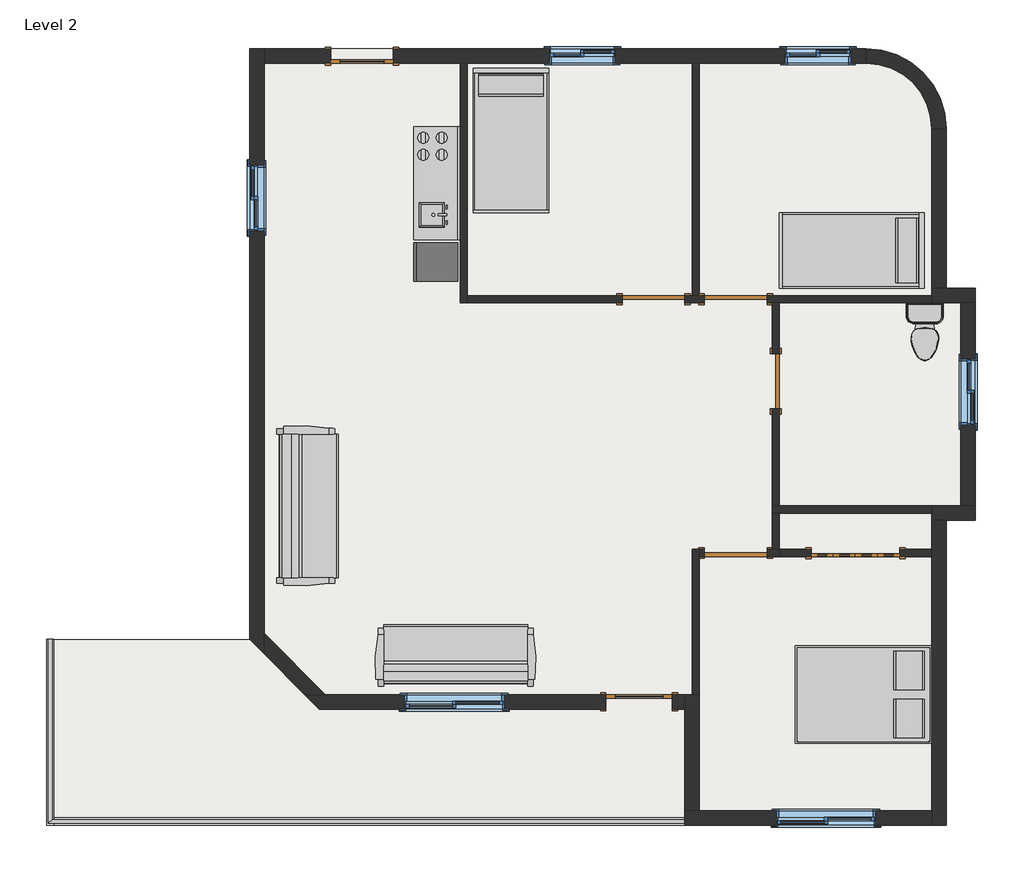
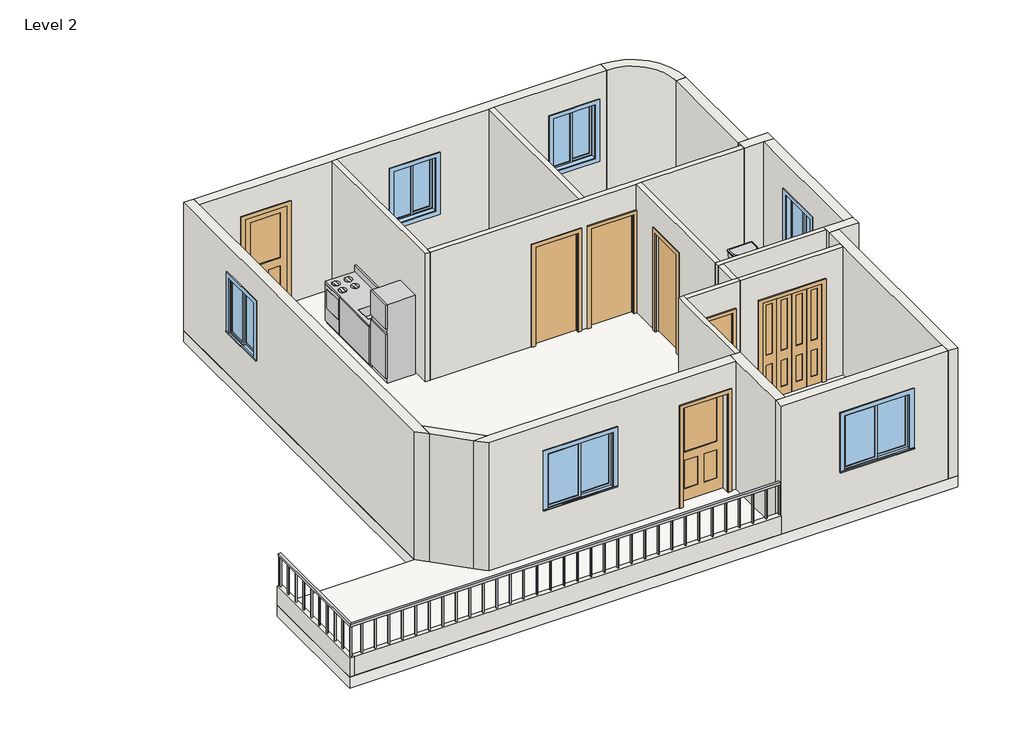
# One storey: 23 walls, 7 doors, 6 windows, 5 furniture elements, 2 flow terminals, 1 railing, 1 slab.
"""IFC4 building model written with IfcOpenShell, lengths in millimetres."""

from ifc_helpers import new_model, si_unit, point, frame, frame_2d, origin, place, context, project, spatial, polyline, circle_curve, trimmed, segment, composite_curve, outline, extrude, faceted_brep, transform, mapped, element, save
from components import m_bifold_4_panel_1220_x_2134mm_c9b228a8, m_single_decorative_1_0864_x_2134mm_a8b8a0d3, m_single_decorative_1_0914_x_2134mm_d79a5f66, m_single_flush_0762_x_2134mm_2f099e9c, m_single_flush_0864_x_2134mm_3838e64d, m_single_flush_0864_x_2134mm_bdbe8edc, m_kitchen_unit_635_mmx2135_mm_826748c3, m_toilet_domestic_3d_m_toilet_domestic_3d_5cb52bd4, m_toilet_domestic_3d_m_toilet_domestic_3d_183bbd19, m_bed_box_1346_x_1880mm_double_9a731973, m_bed_shaker_1040_x_1981mm_twin_31f1bf66, m_sofa_pensi_2134mm_eda8efce, m_sliding_with_trim_0915_x_1220mm_c5f69082, m_sliding_with_trim_1372_x_1220mm_1cbd48f5

model = new_model("IFC4")

# Units and contexts
model_context = context("Model", 3, world=origin())
ifc_project = project(units=[si_unit("LENGTHUNIT", "METRE", prefix="MILLI")], contexts=[model_context])

# Site, building, storey
site = spatial("IfcSite", under=ifc_project)
building = spatial("IfcBuilding", under=site)
storey = spatial("IfcBuildingStorey", under=building, Name="Level 2", Elevation=3000.0)

# Doors
placement = place(None, origin())
m_bifold_4_panel_1220_x_2134mm_shape = m_bifold_4_panel_1220_x_2134mm_c9b228a8(model_context)
element("IfcDoor", 1, ObjectType="M_Bifold-4 Panel : 1220 x 2134mm", at=placement, inside=storey, context=model_context, shape_type="MappedRepresentation", body=[
    mapped(m_bifold_4_panel_1220_x_2134mm_shape, transform((-9012.9123896, -2705.4324328, 3000.0), x_axis=(-1.0, 0.0, 0.0), y_axis=(0.0, -1.0, 0.0), z_axis=(0.0, 0.0, 1.0))),
])
m_single_decorative_1_0864_x_2134mm_shape = m_single_decorative_1_0864_x_2134mm_a8b8a0d3(model_context)
element("IfcDoor", 2, ObjectType="M_Single-Decorative 1 : 0864 x 2134mm", at=placement, inside=storey, context=model_context, shape_type="MappedRepresentation", body=[
    mapped(m_single_decorative_1_0864_x_2134mm_shape, transform((-15812.9123896, 4144.5675672, 3000.0), x_axis=(-1.0, 0.0, 0.0), y_axis=(0.0, -1.0, 0.0), z_axis=(0.0, 0.0, 1.0))),
])
m_single_decorative_1_0914_x_2134mm_shape = m_single_decorative_1_0914_x_2134mm_d79a5f66(model_context)
element("IfcDoor", 3, ObjectType="M_Single-Decorative 1 : 0914 x 2134mm", at=placement, inside=storey, context=model_context, shape_type="MappedRepresentation", body=[
    mapped(m_single_decorative_1_0914_x_2134mm_shape, transform((-11994.9123896, -4755.4324328, 3000.0), x_axis=(1.0, 0.0, 0.0), y_axis=(0.0, 1.0, 0.0), z_axis=(0.0, 0.0, 1.0))),
])
m_single_flush_0762_x_2134mm_shape = m_single_flush_0762_x_2134mm_2f099e9c(model_context)
element("IfcDoor", 4, ObjectType="M_Single-Flush : 0762 x 2134mm", at=placement, inside=storey, context=model_context, shape_type="MappedRepresentation", body=[
    mapped(m_single_flush_0762_x_2134mm_shape, transform((-10112.9123896, -336.4324328, 3000.0), x_axis=(0.0, 1.0, 0.0), y_axis=(-1.0, 0.0, 0.0), z_axis=(0.0, 0.0, 1.0))),
])
m_single_flush_0864_x_2134mm_shape = m_single_flush_0864_x_2134mm_3838e64d(model_context)
element("IfcDoor", 5, ObjectType="M_Single-Flush : 0864 x 2134mm", at=placement, inside=storey, context=model_context, shape_type="MappedRepresentation", body=[
    mapped(m_single_flush_0864_x_2134mm_shape, transform((-10662.9123896, -2705.4324328, 3000.0), x_axis=(-1.0, 0.0, 0.0), y_axis=(0.0, -1.0, 0.0), z_axis=(0.0, 0.0, 1.0))),
])
element("IfcDoor", 6, ObjectType="M_Single-Flush : 0864 x 2134mm", at=placement, inside=storey, context=model_context, shape_type="MappedRepresentation", body=[
    mapped(m_single_flush_0864_x_2134mm_shape, transform((-11794.9123896, 794.5675672, 3000.0), x_axis=(1.0, 0.0, 0.0), y_axis=(0.0, 1.0, 0.0), z_axis=(0.0, 0.0, 1.0))),
])
m_single_flush_0864_x_2134mm_2_shape = m_single_flush_0864_x_2134mm_bdbe8edc(model_context)
element("IfcDoor", 7, ObjectType="M_Single-Flush : 0864 x 2134mm", at=placement, inside=storey, context=model_context, shape_type="MappedRepresentation", body=[
    mapped(m_single_flush_0864_x_2134mm_2_shape, transform((-10662.9123896, 794.5675672, 3000.0), x_axis=(-1.0, 0.0, 0.0), y_axis=(0.0, -1.0, 0.0), z_axis=(0.0, 0.0, 1.0))),
])

# Flow terminals
m_kitchen_unit_635_mmx2135_mm_shape = m_kitchen_unit_635_mmx2135_mm_826748c3(model_context)
element("IfcFlowTerminal", 8, ObjectType="M_Kitchen Unit : 635 mmx2135 mm", at=placement, inside=storey, context=model_context, shape_type="MappedRepresentation", body=[
    mapped(m_kitchen_unit_635_mmx2135_mm_shape, transform((-14462.9123896, 2394.5675672, 3000.0), x_axis=(-1.0, 0.0, 0.0), y_axis=(0.0, -1.0, 0.0), z_axis=(0.0, 0.0, 1.0))),
])
m_toilet_domestic_3d_m_toilet_domestic_3d_shape = m_toilet_domestic_3d_m_toilet_domestic_3d_5cb52bd4(model_context)
m_toilet_domestic_3d_m_toilet_domestic_3d_2_shape = m_toilet_domestic_3d_m_toilet_domestic_3d_183bbd19(model_context)
element("IfcFlowTerminal", 9, ObjectType="M_Toilet-Domestic-3D : M_Toilet-Domestic-3D", at=placement, inside=storey, context=model_context, shape_type="MappedRepresentation", body=[
    mapped(m_toilet_domestic_3d_m_toilet_domestic_3d_shape, transform((-8056.308417, 249.8715399, 3000.0), x_axis=(1.0, 0.0, 0.0), y_axis=(0.0, 1.0, 0.0), z_axis=(0.0, 0.0, 1.0))),
    mapped(m_toilet_domestic_3d_m_toilet_domestic_3d_2_shape, transform((-8056.308417, 249.8715399, 3000.0), x_axis=(1.0, 0.0, 0.0), y_axis=(0.0, 1.0, 0.0), z_axis=(0.0, 0.0, 1.0))),
])

# Furniture
m_bed_box_1346_x_1880mm_double_shape = m_bed_box_1346_x_1880mm_double_9a731973(model_context)
element("IfcFurniture", 10, ObjectType="M_Bed-Box : 1346 x 1880mm - Double", at=placement, inside=storey, context=model_context, shape_type="MappedRepresentation", body=[
    mapped(m_bed_box_1346_x_1880mm_double_shape, transform((-8668.4828814, -4316.2799738, 3000.0), x_axis=(0.0, -1.0, 0.0), y_axis=(1.0, 0.0, 0.0), z_axis=(0.0, 0.0, 1.0))),
])
m_bed_shaker_1040_x_1981mm_twin_shape = m_bed_shaker_1040_x_1981mm_twin_31f1bf66(model_context)
element("IfcFurniture", 11, ObjectType="M_Bed-Shaker : 1040 x 1981mm - Twin", at=placement, inside=storey, context=model_context, shape_type="MappedRepresentation", body=[
    mapped(m_bed_shaker_1040_x_1981mm_twin_shape, transform((-8081.7123896, 1446.2175672, 3000.0), x_axis=(0.0, -1.0, 0.0), y_axis=(1.0, 0.0, 0.0), z_axis=(0.0, 0.0, 1.0))),
])
element("IfcFurniture", 12, ObjectType="M_Bed-Shaker : 1040 x 1981mm - Twin", at=placement, inside=storey, context=model_context, shape_type="MappedRepresentation", body=[
    mapped(m_bed_shaker_1040_x_1981mm_twin_shape, transform((-13743.1623896, 3964.5675672, 3000.0), x_axis=(1.0, 0.0, 0.0), y_axis=(0.0, 1.0, 0.0), z_axis=(0.0, 0.0, 1.0))),
])
m_sofa_pensi_2134mm_shape = m_sofa_pensi_2134mm_eda8efce(model_context)
element("IfcFurniture", 13, ObjectType="M_Sofa-Pensi : 2134mm", at=placement, inside=storey, context=model_context, shape_type="MappedRepresentation", body=[
    mapped(m_sofa_pensi_2134mm_shape, transform((-14244.3061396, -3838.3225967, 3000.0), x_axis=(-1.0, 0.0, 0.0), y_axis=(0.0, -1.0, 0.0), z_axis=(0.0, 0.0, 1.0))),
])
element("IfcFurniture", 14, ObjectType="M_Sofa-Pensi : 2134mm", at=placement, inside=storey, context=model_context, shape_type="MappedRepresentation", body=[
    mapped(m_sofa_pensi_2134mm_shape, transform((-16285.8025536, -2334.0386828, 3000.0), x_axis=(0.0, 1.0, 0.0), y_axis=(-1.0, 0.0, 0.0), z_axis=(0.0, 0.0, 1.0))),
])

# Railing
element("IfcRailing", 15, ObjectType="700mm", at=placement, inside=storey, context=model_context, shape_type="SolidModel", body=[
    faceted_brep([(-11362.9123896, -6430.4324328, 4100.0), (-11362.9123896, -6430.4324328, 4050.0), (-11362.9123896, -6380.4324328, 4050.0), (-11362.9123896, -6380.4324328, 4100.0), (-20137.5123896, -6430.4324328, 4100.0), (-20137.5123896, -6430.4324328, 4050.0), (-20087.5123896, -6380.4324328, 4050.0), (-20087.5123896, -6380.4324328, 4100.0), (-20137.5123896, -3896.853789, 4100.0), (-20087.5123896, -3896.853789, 4100.0), (-20087.5123896, -3896.853789, 4050.0), (-20137.5123896, -3896.853789, 4050.0)], [[[0, 1, 2, 3]], [[1, 0, 4, 5]], [[2, 1, 5, 6]], [[3, 2, 6, 7]], [[0, 3, 7, 4]], [[8, 9, 10, 11]], [[5, 4, 8, 11]], [[6, 5, 11, 10]], [[7, 6, 10, 9]], [[4, 7, 9, 8]]]),
    extrude(outline(polyline([(-20100.0123896, -3942.9324328), (-20125.0123896, -3942.9324328), (-20125.0123896, -3917.9324328), (-20100.0123896, -3917.9324328), (-20100.0123896, -3942.9324328)])), frame((0.0, 0.0, 3400.0), z_axis=(0.0, 0.0, 1.0), x_axis=(1.0, 0.0, 0.0)), (0.0, 0.0, 1.0), 650.0),
    extrude(outline(polyline([(-20100.0123896, -4217.9324328), (-20125.0123896, -4217.9324328), (-20125.0123896, -4192.9324328), (-20100.0123896, -4192.9324328), (-20100.0123896, -4217.9324328)])), frame((0.0, 0.0, 3400.0), z_axis=(0.0, 0.0, 1.0), x_axis=(1.0, 0.0, 0.0)), (0.0, 0.0, 1.0), 650.0),
    extrude(outline(polyline([(-20100.0123896, -4492.9324328), (-20125.0123896, -4492.9324328), (-20125.0123896, -4467.9324328), (-20100.0123896, -4467.9324328), (-20100.0123896, -4492.9324328)])), frame((0.0, 0.0, 3400.0), z_axis=(0.0, 0.0, 1.0), x_axis=(1.0, 0.0, 0.0)), (0.0, 0.0, 1.0), 650.0),
    extrude(outline(polyline([(-20100.0123896, -4767.9324328), (-20125.0123896, -4767.9324328), (-20125.0123896, -4742.9324328), (-20100.0123896, -4742.9324328), (-20100.0123896, -4767.9324328)])), frame((0.0, 0.0, 3400.0), z_axis=(0.0, 0.0, 1.0), x_axis=(1.0, 0.0, 0.0)), (0.0, 0.0, 1.0), 650.0),
    extrude(outline(polyline([(-20100.0123896, -5042.9324328), (-20125.0123896, -5042.9324328), (-20125.0123896, -5017.9324328), (-20100.0123896, -5017.9324328), (-20100.0123896, -5042.9324328)])), frame((0.0, 0.0, 3400.0), z_axis=(0.0, 0.0, 1.0), x_axis=(1.0, 0.0, 0.0)), (0.0, 0.0, 1.0), 650.0),
    extrude(outline(polyline([(-20100.0123896, -5317.9324328), (-20125.0123896, -5317.9324328), (-20125.0123896, -5292.9324328), (-20100.0123896, -5292.9324328), (-20100.0123896, -5317.9324328)])), frame((0.0, 0.0, 3400.0), z_axis=(0.0, 0.0, 1.0), x_axis=(1.0, 0.0, 0.0)), (0.0, 0.0, 1.0), 650.0),
    extrude(outline(polyline([(-20100.0123896, -5592.9324328), (-20125.0123896, -5592.9324328), (-20125.0123896, -5567.9324328), (-20100.0123896, -5567.9324328), (-20100.0123896, -5592.9324328)])), frame((0.0, 0.0, 3400.0), z_axis=(0.0, 0.0, 1.0), x_axis=(1.0, 0.0, 0.0)), (0.0, 0.0, 1.0), 650.0),
    extrude(outline(polyline([(-20100.0123896, -5867.9324328), (-20125.0123896, -5867.9324328), (-20125.0123896, -5842.9324328), (-20100.0123896, -5842.9324328), (-20100.0123896, -5867.9324328)])), frame((0.0, 0.0, 3400.0), z_axis=(0.0, 0.0, 1.0), x_axis=(1.0, 0.0, 0.0)), (0.0, 0.0, 1.0), 650.0),
    extrude(outline(polyline([(-20100.0123896, -6142.9324328), (-20125.0123896, -6142.9324328), (-20125.0123896, -6117.9324328), (-20100.0123896, -6117.9324328), (-20100.0123896, -6142.9324328)])), frame((0.0, 0.0, 3400.0), z_axis=(0.0, 0.0, 1.0), x_axis=(1.0, 0.0, 0.0)), (0.0, 0.0, 1.0), 650.0),
    extrude(outline(polyline([(-19875.4123896, -6392.9324328), (-19875.4123896, -6417.9324328), (-19900.4123896, -6417.9324328), (-19900.4123896, -6392.9324328), (-19875.4123896, -6392.9324328)])), frame((0.0, 0.0, 3400.0), z_axis=(0.0, 0.0, 1.0), x_axis=(1.0, 0.0, 0.0)), (0.0, 0.0, 1.0), 650.0),
    extrude(outline(polyline([(-19600.4123896, -6392.9324328), (-19600.4123896, -6417.9324328), (-19625.4123896, -6417.9324328), (-19625.4123896, -6392.9324328), (-19600.4123896, -6392.9324328)])), frame((0.0, 0.0, 3400.0), z_axis=(0.0, 0.0, 1.0), x_axis=(1.0, 0.0, 0.0)), (0.0, 0.0, 1.0), 650.0),
    extrude(outline(polyline([(-19325.4123896, -6392.9324328), (-19325.4123896, -6417.9324328), (-19350.4123896, -6417.9324328), (-19350.4123896, -6392.9324328), (-19325.4123896, -6392.9324328)])), frame((0.0, 0.0, 3400.0), z_axis=(0.0, 0.0, 1.0), x_axis=(1.0, 0.0, 0.0)), (0.0, 0.0, 1.0), 650.0),
    extrude(outline(polyline([(-19050.4123896, -6392.9324328), (-19050.4123896, -6417.9324328), (-19075.4123896, -6417.9324328), (-19075.4123896, -6392.9324328), (-19050.4123896, -6392.9324328)])), frame((0.0, 0.0, 3400.0), z_axis=(0.0, 0.0, 1.0), x_axis=(1.0, 0.0, 0.0)), (0.0, 0.0, 1.0), 650.0),
    extrude(outline(polyline([(-18775.4123896, -6392.9324328), (-18775.4123896, -6417.9324328), (-18800.4123896, -6417.9324328), (-18800.4123896, -6392.9324328), (-18775.4123896, -6392.9324328)])), frame((0.0, 0.0, 3400.0), z_axis=(0.0, 0.0, 1.0), x_axis=(1.0, 0.0, 0.0)), (0.0, 0.0, 1.0), 650.0),
    extrude(outline(polyline([(-18500.4123896, -6392.9324328), (-18500.4123896, -6417.9324328), (-18525.4123896, -6417.9324328), (-18525.4123896, -6392.9324328), (-18500.4123896, -6392.9324328)])), frame((0.0, 0.0, 3400.0), z_axis=(0.0, 0.0, 1.0), x_axis=(1.0, 0.0, 0.0)), (0.0, 0.0, 1.0), 650.0),
    extrude(outline(polyline([(-18225.4123896, -6392.9324328), (-18225.4123896, -6417.9324328), (-18250.4123896, -6417.9324328), (-18250.4123896, -6392.9324328), (-18225.4123896, -6392.9324328)])), frame((0.0, 0.0, 3400.0), z_axis=(0.0, 0.0, 1.0), x_axis=(1.0, 0.0, 0.0)), (0.0, 0.0, 1.0), 650.0),
    extrude(outline(polyline([(-17950.4123896, -6392.9324328), (-17950.4123896, -6417.9324328), (-17975.4123896, -6417.9324328), (-17975.4123896, -6392.9324328), (-17950.4123896, -6392.9324328)])), frame((0.0, 0.0, 3400.0), z_axis=(0.0, 0.0, 1.0), x_axis=(1.0, 0.0, 0.0)), (0.0, 0.0, 1.0), 650.0),
    extrude(outline(polyline([(-17675.4123896, -6392.9324328), (-17675.4123896, -6417.9324328), (-17700.4123896, -6417.9324328), (-17700.4123896, -6392.9324328), (-17675.4123896, -6392.9324328)])), frame((0.0, 0.0, 3400.0), z_axis=(0.0, 0.0, 1.0), x_axis=(1.0, 0.0, 0.0)), (0.0, 0.0, 1.0), 650.0),
    extrude(outline(polyline([(-17400.4123896, -6392.9324328), (-17400.4123896, -6417.9324328), (-17425.4123896, -6417.9324328), (-17425.4123896, -6392.9324328), (-17400.4123896, -6392.9324328)])), frame((0.0, 0.0, 3400.0), z_axis=(0.0, 0.0, 1.0), x_axis=(1.0, 0.0, 0.0)), (0.0, 0.0, 1.0), 650.0),
    extrude(outline(polyline([(-17125.4123896, -6392.9324328), (-17125.4123896, -6417.9324328), (-17150.4123896, -6417.9324328), (-17150.4123896, -6392.9324328), (-17125.4123896, -6392.9324328)])), frame((0.0, 0.0, 3400.0), z_axis=(0.0, 0.0, 1.0), x_axis=(1.0, 0.0, 0.0)), (0.0, 0.0, 1.0), 650.0),
    extrude(outline(polyline([(-16850.4123896, -6392.9324328), (-16850.4123896, -6417.9324328), (-16875.4123896, -6417.9324328), (-16875.4123896, -6392.9324328), (-16850.4123896, -6392.9324328)])), frame((0.0, 0.0, 3400.0), z_axis=(0.0, 0.0, 1.0), x_axis=(1.0, 0.0, 0.0)), (0.0, 0.0, 1.0), 650.0),
    extrude(outline(polyline([(-16575.4123896, -6392.9324328), (-16575.4123896, -6417.9324328), (-16600.4123896, -6417.9324328), (-16600.4123896, -6392.9324328), (-16575.4123896, -6392.9324328)])), frame((0.0, 0.0, 3400.0), z_axis=(0.0, 0.0, 1.0), x_axis=(1.0, 0.0, 0.0)), (0.0, 0.0, 1.0), 650.0),
    extrude(outline(polyline([(-16300.4123896, -6392.9324328), (-16300.4123896, -6417.9324328), (-16325.4123896, -6417.9324328), (-16325.4123896, -6392.9324328), (-16300.4123896, -6392.9324328)])), frame((0.0, 0.0, 3400.0), z_axis=(0.0, 0.0, 1.0), x_axis=(1.0, 0.0, 0.0)), (0.0, 0.0, 1.0), 650.0),
    extrude(outline(polyline([(-16025.4123896, -6392.9324328), (-16025.4123896, -6417.9324328), (-16050.4123896, -6417.9324328), (-16050.4123896, -6392.9324328), (-16025.4123896, -6392.9324328)])), frame((0.0, 0.0, 3400.0), z_axis=(0.0, 0.0, 1.0), x_axis=(1.0, 0.0, 0.0)), (0.0, 0.0, 1.0), 650.0),
    extrude(outline(polyline([(-15750.4123896, -6392.9324328), (-15750.4123896, -6417.9324328), (-15775.4123896, -6417.9324328), (-15775.4123896, -6392.9324328), (-15750.4123896, -6392.9324328)])), frame((0.0, 0.0, 3400.0), z_axis=(0.0, 0.0, 1.0), x_axis=(1.0, 0.0, 0.0)), (0.0, 0.0, 1.0), 650.0),
    extrude(outline(polyline([(-15475.4123896, -6392.9324328), (-15475.4123896, -6417.9324328), (-15500.4123896, -6417.9324328), (-15500.4123896, -6392.9324328), (-15475.4123896, -6392.9324328)])), frame((0.0, 0.0, 3400.0), z_axis=(0.0, 0.0, 1.0), x_axis=(1.0, 0.0, 0.0)), (0.0, 0.0, 1.0), 650.0),
    extrude(outline(polyline([(-15200.4123896, -6392.9324328), (-15200.4123896, -6417.9324328), (-15225.4123896, -6417.9324328), (-15225.4123896, -6392.9324328), (-15200.4123896, -6392.9324328)])), frame((0.0, 0.0, 3400.0), z_axis=(0.0, 0.0, 1.0), x_axis=(1.0, 0.0, 0.0)), (0.0, 0.0, 1.0), 650.0),
    extrude(outline(polyline([(-14925.4123896, -6392.9324328), (-14925.4123896, -6417.9324328), (-14950.4123896, -6417.9324328), (-14950.4123896, -6392.9324328), (-14925.4123896, -6392.9324328)])), frame((0.0, 0.0, 3400.0), z_axis=(0.0, 0.0, 1.0), x_axis=(1.0, 0.0, 0.0)), (0.0, 0.0, 1.0), 650.0),
    extrude(outline(polyline([(-14650.4123896, -6392.9324328), (-14650.4123896, -6417.9324328), (-14675.4123896, -6417.9324328), (-14675.4123896, -6392.9324328), (-14650.4123896, -6392.9324328)])), frame((0.0, 0.0, 3400.0), z_axis=(0.0, 0.0, 1.0), x_axis=(1.0, 0.0, 0.0)), (0.0, 0.0, 1.0), 650.0),
    extrude(outline(polyline([(-14375.4123896, -6392.9324328), (-14375.4123896, -6417.9324328), (-14400.4123896, -6417.9324328), (-14400.4123896, -6392.9324328), (-14375.4123896, -6392.9324328)])), frame((0.0, 0.0, 3400.0), z_axis=(0.0, 0.0, 1.0), x_axis=(1.0, 0.0, 0.0)), (0.0, 0.0, 1.0), 650.0),
    extrude(outline(polyline([(-14100.4123896, -6392.9324328), (-14100.4123896, -6417.9324328), (-14125.4123896, -6417.9324328), (-14125.4123896, -6392.9324328), (-14100.4123896, -6392.9324328)])), frame((0.0, 0.0, 3400.0), z_axis=(0.0, 0.0, 1.0), x_axis=(1.0, 0.0, 0.0)), (0.0, 0.0, 1.0), 650.0),
    extrude(outline(polyline([(-13825.4123896, -6392.9324328), (-13825.4123896, -6417.9324328), (-13850.4123896, -6417.9324328), (-13850.4123896, -6392.9324328), (-13825.4123896, -6392.9324328)])), frame((0.0, 0.0, 3400.0), z_axis=(0.0, 0.0, 1.0), x_axis=(1.0, 0.0, 0.0)), (0.0, 0.0, 1.0), 650.0),
    extrude(outline(polyline([(-13550.4123896, -6392.9324328), (-13550.4123896, -6417.9324328), (-13575.4123896, -6417.9324328), (-13575.4123896, -6392.9324328), (-13550.4123896, -6392.9324328)])), frame((0.0, 0.0, 3400.0), z_axis=(0.0, 0.0, 1.0), x_axis=(1.0, 0.0, 0.0)), (0.0, 0.0, 1.0), 650.0),
    extrude(outline(polyline([(-13275.4123896, -6392.9324328), (-13275.4123896, -6417.9324328), (-13300.4123896, -6417.9324328), (-13300.4123896, -6392.9324328), (-13275.4123896, -6392.9324328)])), frame((0.0, 0.0, 3400.0), z_axis=(0.0, 0.0, 1.0), x_axis=(1.0, 0.0, 0.0)), (0.0, 0.0, 1.0), 650.0),
    extrude(outline(polyline([(-13000.4123896, -6392.9324328), (-13000.4123896, -6417.9324328), (-13025.4123896, -6417.9324328), (-13025.4123896, -6392.9324328), (-13000.4123896, -6392.9324328)])), frame((0.0, 0.0, 3400.0), z_axis=(0.0, 0.0, 1.0), x_axis=(1.0, 0.0, 0.0)), (0.0, 0.0, 1.0), 650.0),
    extrude(outline(polyline([(-12725.4123896, -6392.9324328), (-12725.4123896, -6417.9324328), (-12750.4123896, -6417.9324328), (-12750.4123896, -6392.9324328), (-12725.4123896, -6392.9324328)])), frame((0.0, 0.0, 3400.0), z_axis=(0.0, 0.0, 1.0), x_axis=(1.0, 0.0, 0.0)), (0.0, 0.0, 1.0), 650.0),
    extrude(outline(polyline([(-12450.4123896, -6392.9324328), (-12450.4123896, -6417.9324328), (-12475.4123896, -6417.9324328), (-12475.4123896, -6392.9324328), (-12450.4123896, -6392.9324328)])), frame((0.0, 0.0, 3400.0), z_axis=(0.0, 0.0, 1.0), x_axis=(1.0, 0.0, 0.0)), (0.0, 0.0, 1.0), 650.0),
    extrude(outline(polyline([(-12175.4123896, -6392.9324328), (-12175.4123896, -6417.9324328), (-12200.4123896, -6417.9324328), (-12200.4123896, -6392.9324328), (-12175.4123896, -6392.9324328)])), frame((0.0, 0.0, 3400.0), z_axis=(0.0, 0.0, 1.0), x_axis=(1.0, 0.0, 0.0)), (0.0, 0.0, 1.0), 650.0),
    extrude(outline(polyline([(-11900.4123896, -6392.9324328), (-11900.4123896, -6417.9324328), (-11925.4123896, -6417.9324328), (-11925.4123896, -6392.9324328), (-11900.4123896, -6392.9324328)])), frame((0.0, 0.0, 3400.0), z_axis=(0.0, 0.0, 1.0), x_axis=(1.0, 0.0, 0.0)), (0.0, 0.0, 1.0), 650.0),
    extrude(outline(polyline([(-11625.4123896, -6392.9324328), (-11625.4123896, -6417.9324328), (-11650.4123896, -6417.9324328), (-11650.4123896, -6392.9324328), (-11625.4123896, -6392.9324328)])), frame((0.0, 0.0, 3400.0), z_axis=(0.0, 0.0, 1.0), x_axis=(1.0, 0.0, 0.0)), (0.0, 0.0, 1.0), 650.0),
    extrude(outline(polyline([(-20100.0123896, -6392.9324328), (-20100.0123896, -6417.9324328), (-20125.0123896, -6417.9324328), (-20125.0123896, -6392.9324328), (-20100.0123896, -6392.9324328)])), frame((0.0, 0.0, 3400.0), z_axis=(0.0, 0.0, 1.0), x_axis=(1.0, 0.0, 0.0)), (0.0, 0.0, 1.0), 650.0),
    extrude(outline(polyline([(-20100.0123896, -3921.853789), (-20125.0123896, -3921.853789), (-20125.0123896, -3896.853789), (-20100.0123896, -3896.853789), (-20100.0123896, -3921.853789)])), frame((0.0, 0.0, 3400.0), z_axis=(0.0, 0.0, 1.0), x_axis=(1.0, 0.0, 0.0)), (0.0, 0.0, 1.0), 650.0),
    extrude(outline(polyline([(-11362.9123896, -6392.9324328), (-11362.9123896, -6417.9324328), (-11387.9123896, -6417.9324328), (-11387.9123896, -6392.9324328), (-11362.9123896, -6392.9324328)])), frame((0.0, 0.0, 3400.0), z_axis=(0.0, 0.0, 1.0), x_axis=(1.0, 0.0, 0.0)), (0.0, 0.0, 1.0), 650.0),
])

# Slab
element("IfcSlab", 16, ObjectType="Standard Timber-Wood Finish", at=placement, inside=storey, context=model_context, shape_type="SweptSolid", body=[
    extrude(outline(composite_curve([segment(polyline([(-7762.9123896, 944.5675672), (-7362.9123896, 944.5675672), (-7362.9123896, -2255.4324328), (-7762.9123896, -2255.4324328), (-7762.9123896, -6455.4324328), (-20162.9123896, -6455.4324328), (-20162.9123896, -3896.853789), (-17362.9123896, -3896.853789), (-17362.9123896, 4244.5675672), (-8862.9123896, 4244.5675672)]), True, "CONTINUOUS"), segment(trimmed(circle_curve(frame_2d((-8862.9123896, 3144.5675672)), 1100.0), [point((-8862.9123896, 4244.5675672))], [point((-7762.9123896, 3144.5675672))], False, "CARTESIAN"), True, "CONTINUOUS"), segment(polyline([(-7762.9123896, 3144.5675672), (-7762.9123896, 944.5675672)]), True, "CONTINUOUS")], self_intersect=False)), frame((0.0, 0.0, 2759.0), z_axis=(0.0, 0.0, 1.0), x_axis=(1.0, 0.0, 0.0)), (0.0, 0.0, 1.0), 241.0),
])

# Walls
element("IfcWall", 17, ObjectType="Generic - 100mm", at=placement, inside=storey, context=model_context, shape_type="Brep", body=[
    faceted_brep([(-7962.9123896, -2055.4324328, 3000.0), (-10062.9123896, -2055.4324328, 3000.0), (-10162.9123896, -2055.4324328, 3000.0), (-10162.9123896, -2055.4324328, 5759.0), (-10062.9123896, -2055.4324328, 5759.0), (-7962.9123896, -2055.4324328, 5759.0), (-7962.9123896, -2155.4324328, 3000.0), (-7962.9123896, -2155.4324328, 5759.0), (-10062.9123896, -2155.4324328, 5759.0), (-10162.9123896, -2155.4324328, 5759.0), (-10162.9123896, -2155.4324328, 3000.0), (-10062.9123896, -2155.4324328, 3000.0)], [[[0, 1, 2, 3, 4, 5]], [[6, 7, 8, 9, 10, 11]], [[2, 1, 0, 6, 11, 10]], [[0, 5, 7, 6]], [[3, 2, 10, 9]], [[5, 4, 3, 9, 8, 7]]]),
])
element("IfcWall", 18, ObjectType="Generic - 100mm", at=placement, inside=storey, context=model_context, shape_type="Brep", body=[
    faceted_brep([(-11262.9123896, -2655.4324328, 3000.0), (-11262.9123896, -4655.4324328, 3000.0), (-11262.9123896, -4655.4324328, 5759.0), (-11262.9123896, -2655.4324328, 5759.0), (-11162.9123896, -2655.4324328, 3000.0), (-11162.9123896, -2655.4324328, 5759.0), (-11162.9123896, -2755.4324328, 5759.0), (-11162.9123896, -4655.4324328, 5759.0), (-11162.9123896, -4655.4324328, 3000.0), (-11162.9123896, -2755.4324328, 3000.0)], [[[0, 1, 2, 3]], [[4, 5, 6, 7, 8, 9]], [[1, 0, 4, 9, 8]], [[2, 1, 8, 7]], [[0, 3, 5, 4]], [[3, 2, 7, 6, 5]]]),
])
element("IfcWall", 19, ObjectType="Generic - 100mm", at=placement, inside=storey, context=model_context, shape_type="Brep", body=[
    faceted_brep([(-11094.9123896, -2655.4324328, 5134.0), (-11094.9123896, -2655.4324328, 3000.0), (-11162.9123896, -2655.4324328, 3000.0), (-11162.9123896, -2655.4324328, 5759.0), (-10162.9123896, -2655.4324328, 5759.0), (-10062.9123896, -2655.4324328, 5759.0), (-10062.9123896, -2655.4324328, 3000.0), (-10162.9123896, -2655.4324328, 3000.0), (-10230.9123896, -2655.4324328, 3000.0), (-10230.9123896, -2655.4324328, 5134.0), (-11162.9123896, -2755.4324328, 3000.0), (-11094.9123896, -2755.4324328, 3000.0), (-11094.9123896, -2755.4324328, 5134.0), (-10230.9123896, -2755.4324328, 5134.0), (-10230.9123896, -2755.4324328, 3000.0), (-10062.9123896, -2755.4324328, 3000.0), (-10062.9123896, -2755.4324328, 5759.0), (-11162.9123896, -2755.4324328, 5759.0)], [[[0, 1, 2, 3, 4, 5, 6, 7, 8, 9]], [[10, 11, 12, 13, 14, 15, 16, 17]], [[2, 1, 11, 10]], [[8, 7, 6, 15, 14]], [[3, 2, 10, 17]], [[6, 5, 16, 15]], [[12, 11, 1, 0]], [[13, 12, 0, 9]], [[14, 13, 9, 8]], [[5, 4, 3, 17, 16]]]),
])
element("IfcWall", 20, ObjectType="Generic - 100mm", at=placement, inside=storey, context=model_context, shape_type="SweptSolid", body=[
    extrude(outline(polyline([(-10162.9123896, -2655.4324328), (-10162.9123896, -2155.4324328), (-10062.9123896, -2155.4324328), (-10062.9123896, -2655.4324328), (-10162.9123896, -2655.4324328)])), frame((0.0, 0.0, 3000.0), z_axis=(0.0, 0.0, 1.0), x_axis=(1.0, 0.0, 0.0)), (0.0, 0.0, 1.0), 2759.0),
])
element("IfcWall", 21, ObjectType="Generic - 100mm", at=placement, inside=storey, context=model_context, shape_type="SweptSolid", body=[
    extrude(outline(polyline([(5759.0, -10062.9123896), (3000.0, -10062.9123896), (3000.0, -9622.9123896), (5134.0, -9622.9123896), (5134.0, -8402.9123896), (3000.0, -8402.9123896), (3000.0, -7962.9123896), (5759.0, -7962.9123896), (5759.0, -10062.9123896)])), frame((0.0, -2755.4324328, 0.0), z_axis=(0.0, 1.0, 0.0), x_axis=(0.0, 0.0, 1.0)), (0.0, 0.0, 1.0), 100.0),
])
element("IfcWall", 22, ObjectType="Generic - 100mm", at=placement, inside=storey, context=model_context, shape_type="Brep", body=[
    faceted_brep([(-11094.9123896, 844.5675672, 3000.0), (-11162.9123896, 844.5675672, 3000.0), (-11262.9123896, 844.5675672, 3000.0), (-11362.9123896, 844.5675672, 3000.0), (-11362.9123896, 844.5675672, 5134.0), (-12226.9123896, 844.5675672, 5134.0), (-12226.9123896, 844.5675672, 3000.0), (-14362.9123896, 844.5675672, 3000.0), (-14362.9123896, 844.5675672, 5759.0), (-11262.9123896, 844.5675672, 5759.0), (-11162.9123896, 844.5675672, 5759.0), (-7962.9123896, 844.5675672, 5759.0), (-7962.9123896, 844.5675672, 3000.0), (-10230.9123896, 844.5675672, 3000.0), (-10230.9123896, 844.5675672, 5134.0), (-11094.9123896, 844.5675672, 5134.0), (-11362.9123896, 744.5675672, 5134.0), (-11362.9123896, 744.5675672, 3000.0), (-11094.9123896, 744.5675672, 3000.0), (-11094.9123896, 744.5675672, 5134.0), (-10230.9123896, 744.5675672, 5134.0), (-10230.9123896, 744.5675672, 3000.0), (-10162.9123896, 744.5675672, 3000.0), (-10062.9123896, 744.5675672, 3000.0), (-7962.9123896, 744.5675672, 3000.0), (-7962.9123896, 744.5675672, 5759.0), (-10062.9123896, 744.5675672, 5759.0), (-10162.9123896, 744.5675672, 5759.0), (-14362.9123896, 744.5675672, 5759.0), (-14362.9123896, 744.5675672, 3000.0), (-12226.9123896, 744.5675672, 3000.0), (-12226.9123896, 744.5675672, 5134.0)], [[[0, 1, 2, 3, 4, 5, 6, 7, 8, 9, 10, 11, 12, 13, 14, 15]], [[16, 17, 18, 19, 20, 21, 22, 23, 24, 25, 26, 27, 28, 29, 30, 31]], [[13, 12, 24, 23, 22, 21]], [[30, 29, 7, 6]], [[18, 17, 3, 2, 1, 0]], [[12, 11, 25, 24]], [[8, 7, 29, 28]], [[19, 18, 0, 15]], [[20, 19, 15, 14]], [[21, 20, 14, 13]], [[4, 3, 17, 16]], [[5, 4, 16, 31]], [[6, 5, 31, 30]], [[11, 10, 9, 8, 28, 27, 26, 25]]]),
])
element("IfcWall", 23, ObjectType="Generic - 100mm", at=placement, inside=storey, context=model_context, shape_type="SweptSolid", body=[
    extrude(outline(polyline([(744.5675672, 3000.0), (44.5675672, 3000.0), (44.5675672, 5134.0), (-717.4324328, 5134.0), (-717.4324328, 3000.0), (-2055.4324328, 3000.0), (-2055.4324328, 5759.0), (744.5675672, 5759.0), (744.5675672, 3000.0)])), frame((-10162.9123896, 0.0, 0.0), z_axis=(1.0, 0.0, 0.0), x_axis=(0.0, 1.0, 0.0)), (0.0, 0.0, 1.0), 100.0),
])
element("IfcWall", 24, ObjectType="Generic - 100mm", at=placement, inside=storey, context=model_context, shape_type="Brep", body=[
    faceted_brep([(-14462.9123896, 4044.5675672, 3000.0), (-14462.9123896, 744.5675672, 3000.0), (-14462.9123896, 744.5675672, 5759.0), (-14462.9123896, 4044.5675672, 5759.0), (-14362.9123896, 4044.5675672, 3000.0), (-14362.9123896, 4044.5675672, 5759.0), (-14362.9123896, 844.5675672, 5759.0), (-14362.9123896, 744.5675672, 5759.0), (-14362.9123896, 744.5675672, 3000.0), (-14362.9123896, 844.5675672, 3000.0)], [[[0, 1, 2, 3]], [[4, 5, 6, 7, 8, 9]], [[1, 0, 4, 9, 8]], [[0, 3, 5, 4]], [[2, 1, 8, 7]], [[3, 2, 7, 6, 5]]]),
])
element("IfcWall", 25, ObjectType="Generic - 100mm", at=placement, inside=storey, context=model_context, shape_type="SweptSolid", body=[
    extrude(outline(polyline([(-11262.9123896, 844.5675672), (-11262.9123896, 4044.5675672), (-11162.9123896, 4044.5675672), (-11162.9123896, 844.5675672), (-11262.9123896, 844.5675672)])), frame((0.0, 0.0, 3000.0), z_axis=(0.0, 0.0, 1.0), x_axis=(1.0, 0.0, 0.0)), (0.0, 0.0, 1.0), 2759.0),
])
element("IfcWall", 26, ObjectType="Generic - 100mm", at=placement, inside=storey, context=model_context, shape_type="SweptSolid", body=[
    extrude(outline(polyline([(-20062.9123896, -6355.4324328), (-11362.9123896, -6355.4324328), (-11362.9123896, -6455.4324328), (-20062.9123896, -6455.4324328), (-20062.9123896, -6355.4324328)])), frame((0.0, 0.0, 3000.0), z_axis=(0.0, 0.0, 1.0), x_axis=(1.0, 0.0, 0.0)), (0.0, 0.0, 1.0), 400.0),
])
element("IfcWall", 27, ObjectType="Generic - 100mm", at=placement, inside=storey, context=model_context, shape_type="Brep", body=[
    faceted_brep([(-20062.9123896, -6455.4324328, 3000.0), (-20062.9123896, -6355.4324328, 3000.0), (-20062.9123896, -3896.853789, 3000.0), (-20062.9123896, -3896.853789, 3400.0), (-20062.9123896, -6355.4324328, 3400.0), (-20062.9123896, -6455.4324328, 3400.0), (-20162.9123896, -6455.4324328, 3000.0), (-20162.9123896, -6455.4324328, 3400.0), (-20162.9123896, -3896.853789, 3400.0), (-20162.9123896, -3896.853789, 3000.0)], [[[0, 1, 2, 3, 4, 5]], [[6, 7, 8, 9]], [[2, 1, 0, 6, 9]], [[3, 2, 9, 8]], [[5, 4, 3, 8, 7]], [[0, 5, 7, 6]]]),
])
element("IfcWall", 28, ObjectType="Generic - 200mm", at=placement, inside=storey, context=model_context, shape_type="Brep", body=[
    faceted_brep([(-17162.9123896, -4096.853789, 3000.0), (-17162.9123896, -3814.0110766, 3000.0), (-17162.9123896, 4044.5675672, 3000.0), (-17162.9123896, 4244.5675672, 3000.0), (-17162.9123896, 4244.5675672, 5759.0), (-17162.9123896, 4044.5675672, 5759.0), (-17162.9123896, -3814.0110766, 5759.0), (-17162.9123896, -4096.853789, 5759.0), (-17162.9123896, 2644.5675672, 5135.0), (-17162.9123896, 2644.5675672, 3915.0), (-17162.9123896, 1729.5675672, 3915.0), (-17162.9123896, 1729.5675672, 5135.0), (-17362.9123896, -3896.853789, 3000.0), (-17362.9123896, -3896.853789, 5759.0), (-17362.9123896, 4244.5675672, 5759.0), (-17362.9123896, 4244.5675672, 3000.0), (-17362.9123896, 2644.5675672, 5135.0), (-17362.9123896, 1729.5675672, 5135.0), (-17362.9123896, 1729.5675672, 3915.0), (-17362.9123896, 2644.5675672, 3915.0)], [[[0, 1, 2, 3, 4, 5, 6, 7], [8, 9, 10, 11]], [[12, 13, 14, 15], [16, 17, 18, 19]], [[3, 2, 1, 0, 12, 15]], [[4, 3, 15, 14]], [[9, 8, 16, 19]], [[10, 9, 19, 18]], [[11, 10, 18, 17]], [[8, 11, 17, 16]], [[0, 7, 13, 12]], [[7, 6, 5, 4, 14, 13]]]),
])
element("IfcWall", 29, ObjectType="Generic - 200mm", at=placement, inside=storey, context=model_context, shape_type="Brep", body=[
    faceted_brep([(-8862.9123896, 4044.5675672, 3000.0), (-8862.9123896, 4044.5675672, 5759.0), (-11162.9123896, 4044.5675672, 5759.0), (-11262.9123896, 4044.5675672, 5759.0), (-14362.9123896, 4044.5675672, 5759.0), (-14462.9123896, 4044.5675672, 5759.0), (-17162.9123896, 4044.5675672, 5759.0), (-17162.9123896, 4044.5675672, 3000.0), (-16244.9123896, 4044.5675672, 3000.0), (-16244.9123896, 4044.5675672, 5134.0), (-15380.9123896, 4044.5675672, 5134.0), (-15380.9123896, 4044.5675672, 3000.0), (-14462.9123896, 4044.5675672, 3000.0), (-14362.9123896, 4044.5675672, 3000.0), (-11262.9123896, 4044.5675672, 3000.0), (-11162.9123896, 4044.5675672, 3000.0), (-9070.4373896, 4044.5675672, 5135.0), (-9070.4373896, 4044.5675672, 3915.0), (-9985.4373896, 4044.5675672, 3915.0), (-9985.4373896, 4044.5675672, 5135.0), (-12320.4373896, 4044.5675672, 5135.0), (-12320.4373896, 4044.5675672, 3915.0), (-13235.4373896, 4044.5675672, 3915.0), (-13235.4373896, 4044.5675672, 5135.0), (-8862.9123896, 4244.5675672, 5759.0), (-8862.9123896, 4244.5675672, 3000.0), (-15380.9123896, 4244.5675672, 3000.0), (-15380.9123896, 4244.5675672, 5134.0), (-16244.9123896, 4244.5675672, 5134.0), (-16244.9123896, 4244.5675672, 3000.0), (-17162.9123896, 4244.5675672, 3000.0), (-17162.9123896, 4244.5675672, 5759.0), (-9070.4373896, 4244.5675672, 5135.0), (-9985.4373896, 4244.5675672, 5135.0), (-9985.4373896, 4244.5675672, 3915.0), (-9070.4373896, 4244.5675672, 3915.0), (-12320.4373896, 4244.5675672, 5135.0), (-13235.4373896, 4244.5675672, 5135.0), (-13235.4373896, 4244.5675672, 3915.0), (-12320.4373896, 4244.5675672, 3915.0)], [[[0, 1, 2, 3, 4, 5, 6, 7, 8, 9, 10, 11, 12, 13, 14, 15], [16, 17, 18, 19], [20, 21, 22, 23]], [[24, 25, 26, 27, 28, 29, 30, 31], [32, 33, 34, 35], [36, 37, 38, 39]], [[7, 30, 29, 8]], [[25, 0, 15, 14, 13, 12, 11, 26]], [[1, 0, 25, 24]], [[7, 6, 31, 30]], [[28, 9, 8, 29]], [[9, 28, 27, 10]], [[10, 27, 26, 11]], [[17, 16, 32, 35]], [[18, 17, 35, 34]], [[19, 18, 34, 33]], [[16, 19, 33, 32]], [[21, 20, 36, 39]], [[22, 21, 39, 38]], [[23, 22, 38, 37]], [[20, 23, 37, 36]], [[6, 5, 4, 3, 2, 1, 24, 31]]]),
])
element("IfcWall", 30, ObjectType="Generic - 200mm", at=placement, inside=storey, context=model_context, shape_type="SweptSolid", body=[
    extrude(outline(polyline([(-7962.9123896, 944.5675672), (-7962.9123896, 3144.5675672), (-7762.9123896, 3144.5675672), (-7762.9123896, 944.5675672), (-7962.9123896, 944.5675672)])), frame((0.0, 0.0, 3000.0), z_axis=(0.0, 0.0, 1.0), x_axis=(1.0, 0.0, 0.0)), (0.0, 0.0, 1.0), 2759.0),
])
element("IfcWall", 31, ObjectType="Generic - 200mm", at=placement, inside=storey, context=model_context, shape_type="Brep", body=[
    faceted_brep([(-7962.9123896, 744.5675672, 3000.0), (-7562.9123896, 744.5675672, 3000.0), (-7362.9123896, 744.5675672, 3000.0), (-7362.9123896, 744.5675672, 5759.0), (-7562.9123896, 744.5675672, 5759.0), (-7962.9123896, 744.5675672, 5759.0), (-7962.9123896, 944.5675672, 3000.0), (-7962.9123896, 944.5675672, 5759.0), (-7762.9123896, 944.5675672, 5759.0), (-7362.9123896, 944.5675672, 5759.0), (-7362.9123896, 944.5675672, 3000.0), (-7762.9123896, 944.5675672, 3000.0), (-7962.9123896, 844.5675672, 3000.0), (-7962.9123896, 844.5675672, 5759.0)], [[[0, 1, 2, 3, 4, 5]], [[6, 7, 8, 9, 10, 11]], [[2, 1, 0, 12, 6, 11, 10]], [[0, 5, 13, 7, 6, 12]], [[3, 2, 10, 9]], [[5, 4, 3, 9, 8, 7, 13]]]),
])
element("IfcWall", 32, ObjectType="Generic - 200mm", at=placement, inside=storey, context=model_context, shape_type="SweptSolid", body=[
    extrude(outline(polyline([(744.5675672, 3000.0), (-2055.4324328, 3000.0), (-2055.4324328, 5759.0), (744.5675672, 5759.0), (744.5675672, 3000.0)]), holes=[polyline([(-940.3824328, 5135.0), (-940.3824328, 3915.0), (-25.3824328, 3915.0), (-25.3824328, 5135.0), (-940.3824328, 5135.0)])]), frame((-7562.9123896, 0.0, 0.0), z_axis=(1.0, 0.0, 0.0), x_axis=(0.0, 1.0, 0.0)), (0.0, 0.0, 1.0), 200.0),
])
element("IfcWall", 33, ObjectType="Generic - 200mm", at=placement, inside=storey, context=model_context, shape_type="Brep", body=[
    faceted_brep([(-7362.9123896, -2055.4324328, 3000.0), (-7562.9123896, -2055.4324328, 3000.0), (-7962.9123896, -2055.4324328, 3000.0), (-7962.9123896, -2055.4324328, 5759.0), (-7562.9123896, -2055.4324328, 5759.0), (-7362.9123896, -2055.4324328, 5759.0), (-7362.9123896, -2255.4324328, 3000.0), (-7362.9123896, -2255.4324328, 5759.0), (-7762.9123896, -2255.4324328, 5759.0), (-7962.9123896, -2255.4324328, 5759.0), (-7962.9123896, -2255.4324328, 3000.0), (-7762.9123896, -2255.4324328, 3000.0), (-7962.9123896, -2155.4324328, 3000.0), (-7962.9123896, -2155.4324328, 5759.0)], [[[0, 1, 2, 3, 4, 5]], [[6, 7, 8, 9, 10, 11]], [[2, 1, 0, 6, 11, 10, 12]], [[0, 5, 7, 6]], [[3, 2, 12, 10, 9, 13]], [[5, 4, 3, 13, 9, 8, 7]]]),
])
element("IfcWall", 34, ObjectType="Generic - 200mm", at=placement, inside=storey, context=model_context, shape_type="Brep", body=[
    faceted_brep([(-7962.9123896, -2255.4324328, 3000.0), (-7962.9123896, -2655.4324328, 3000.0), (-7962.9123896, -2755.4324328, 3000.0), (-7962.9123896, -6255.4324328, 3000.0), (-7962.9123896, -6455.4324328, 3000.0), (-7962.9123896, -6455.4324328, 5759.0), (-7962.9123896, -6255.4324328, 5759.0), (-7962.9123896, -2755.4324328, 5759.0), (-7962.9123896, -2655.4324328, 5759.0), (-7962.9123896, -2255.4324328, 5759.0), (-7762.9123896, -2255.4324328, 3000.0), (-7762.9123896, -2255.4324328, 5759.0), (-7762.9123896, -6455.4324328, 5759.0), (-7762.9123896, -6455.4324328, 3000.0)], [[[0, 1, 2, 3, 4, 5, 6, 7, 8, 9]], [[10, 11, 12, 13]], [[4, 3, 2, 1, 0, 10, 13]], [[0, 9, 11, 10]], [[5, 4, 13, 12]], [[9, 8, 7, 6, 5, 12, 11]]]),
])
element("IfcWall", 35, ObjectType="Generic - 200mm", at=placement, inside=storey, context=model_context, shape_type="Brep", body=[
    faceted_brep([(-7962.9123896, -6255.4324328, 3000.0), (-11162.9123896, -6255.4324328, 3000.0), (-11362.9123896, -6255.4324328, 3000.0), (-11362.9123896, -6255.4324328, 5759.0), (-11162.9123896, -6255.4324328, 5759.0), (-7962.9123896, -6255.4324328, 5759.0), (-10104.8623896, -6255.4324328, 5135.0), (-10104.8623896, -6255.4324328, 3915.0), (-8732.8623896, -6255.4324328, 3915.0), (-8732.8623896, -6255.4324328, 5135.0), (-7962.9123896, -6455.4324328, 3000.0), (-7962.9123896, -6455.4324328, 5759.0), (-11362.9123896, -6455.4324328, 5759.0), (-11362.9123896, -6455.4324328, 3000.0), (-10104.8623896, -6455.4324328, 5135.0), (-8732.8623896, -6455.4324328, 5135.0), (-8732.8623896, -6455.4324328, 3915.0), (-10104.8623896, -6455.4324328, 3915.0)], [[[0, 1, 2, 3, 4, 5], [6, 7, 8, 9]], [[10, 11, 12, 13], [14, 15, 16, 17]], [[2, 1, 0, 10, 13]], [[0, 5, 11, 10]], [[3, 2, 13, 12]], [[7, 6, 14, 17]], [[8, 7, 17, 16]], [[9, 8, 16, 15]], [[6, 9, 15, 14]], [[5, 4, 3, 12, 11]]]),
])
element("IfcWall", 36, ObjectType="Generic - 200mm", at=placement, inside=storey, context=model_context, shape_type="Brep", body=[
    faceted_brep([(-11162.9123896, -6255.4324328, 3000.0), (-11162.9123896, -4655.4324328, 3000.0), (-11162.9123896, -4655.4324328, 5759.0), (-11162.9123896, -6255.4324328, 5759.0), (-11362.9123896, -6255.4324328, 3000.0), (-11362.9123896, -6255.4324328, 5759.0), (-11362.9123896, -4855.4324328, 5759.0), (-11362.9123896, -4655.4324328, 5759.0), (-11362.9123896, -4655.4324328, 3000.0), (-11362.9123896, -4855.4324328, 3000.0), (-11262.9123896, -4655.4324328, 3000.0), (-11262.9123896, -4655.4324328, 5759.0)], [[[0, 1, 2, 3]], [[4, 5, 6, 7, 8, 9]], [[1, 0, 4, 9, 8, 10]], [[0, 3, 5, 4]], [[2, 1, 10, 8, 7, 11]], [[3, 2, 11, 7, 6, 5]]]),
])
element("IfcWall", 37, ObjectType="Generic - 200mm", at=placement, inside=storey, context=model_context, shape_type="Brep", body=[
    faceted_brep([(-11362.9123896, -4655.4324328, 5759.0), (-11362.9123896, -4655.4324328, 3000.0), (-11537.9123896, -4655.4324328, 3000.0), (-11537.9123896, -4655.4324328, 5134.0), (-12451.9123896, -4655.4324328, 5134.0), (-12451.9123896, -4655.4324328, 3000.0), (-16321.4910334, -4655.4324328, 3000.0), (-16604.3337459, -4655.4324328, 3000.0), (-16604.3337459, -4655.4324328, 5759.0), (-16321.4910334, -4655.4324328, 5759.0), (-15228.3873896, -4655.4324328, 5135.0), (-15228.3873896, -4655.4324328, 3915.0), (-13856.3873896, -4655.4324328, 3915.0), (-13856.3873896, -4655.4324328, 5135.0), (-11362.9123896, -4855.4324328, 3000.0), (-11362.9123896, -4855.4324328, 5759.0), (-16404.3337459, -4855.4324328, 5759.0), (-16404.3337459, -4855.4324328, 3000.0), (-12451.9123896, -4855.4324328, 3000.0), (-12451.9123896, -4855.4324328, 5134.0), (-11537.9123896, -4855.4324328, 5134.0), (-11537.9123896, -4855.4324328, 3000.0), (-15228.3873896, -4855.4324328, 5135.0), (-13856.3873896, -4855.4324328, 5135.0), (-13856.3873896, -4855.4324328, 3915.0), (-15228.3873896, -4855.4324328, 3915.0)], [[[0, 1, 2, 3, 4, 5, 6, 7, 8, 9], [10, 11, 12, 13]], [[14, 15, 16, 17, 18, 19, 20, 21], [22, 23, 24, 25]], [[1, 14, 21, 2]], [[17, 7, 6, 5, 18]], [[20, 3, 2, 21]], [[3, 20, 19, 4]], [[4, 19, 18, 5]], [[11, 10, 22, 25]], [[12, 11, 25, 24]], [[13, 12, 24, 23]], [[10, 13, 23, 22]], [[1, 0, 15, 14]], [[8, 7, 17, 16]], [[0, 9, 8, 16, 15]]]),
])
element("IfcWall", 38, ObjectType="Generic - 200mm", at=placement, inside=storey, context=model_context, shape_type="SweptSolid", body=[
    extrude(outline(composite_curve([segment(polyline([(-8862.9123896, 4044.5675672), (-8862.9123896, 4244.5675672)]), True, "CONTINUOUS"), segment(trimmed(circle_curve(frame_2d((-8862.9123896, 3144.5675672)), 1100.0), [point((-8862.9123896, 4244.5675672))], [point((-7762.9123896, 3144.5675672))], False, "CARTESIAN"), True, "CONTINUOUS"), segment(polyline([(-7762.9123896, 3144.5675672), (-7962.9123896, 3144.5675672)]), True, "CONTINUOUS"), segment(trimmed(circle_curve(frame_2d((-8862.9123896, 3144.5675672)), 900.0), [point((-7962.9123896, 3144.5675672))], [point((-8862.9123896, 4044.5675672))], True, "CARTESIAN"), True, "CONTINUOUS")], self_intersect=False)), frame((0.0, 0.0, 3000.0), z_axis=(0.0, 0.0, 1.0), x_axis=(1.0, 0.0, 0.0)), (0.0, 0.0, 1.0), 2759.0),
])
element("IfcWall", 39, ObjectType="Generic - 200mm", at=placement, inside=storey, context=model_context, shape_type="SweptSolid", body=[
    extrude(outline(polyline([(-17162.9123896, -3814.0110766), (-16321.4910334, -4655.4324328), (-16604.3337459, -4655.4324328), (-17162.9123896, -4096.853789), (-17162.9123896, -3814.0110766)])), frame((0.0, 0.0, 3000.0), z_axis=(0.0, 0.0, 1.0), x_axis=(1.0, 0.0, 0.0)), (0.0, 0.0, 1.0), 2759.0),
])

# Windows
m_sliding_with_trim_0915_x_1220mm_shape = m_sliding_with_trim_0915_x_1220mm_c5f69082(model_context)
element("IfcWindow", 40, ObjectType="M_Sliding with Trim : 0915 x 1220mm", at=placement, inside=storey, context=model_context, shape_type="MappedRepresentation", body=[
    mapped(m_sliding_with_trim_0915_x_1220mm_shape, transform((-7462.9123896, -482.8824328, 3000.0), x_axis=(0.0, -1.0, 0.0), y_axis=(1.0, 0.0, 0.0), z_axis=(0.0, 0.0, 1.0))),
])
element("IfcWindow", 41, ObjectType="M_Sliding with Trim : 0915 x 1220mm", at=placement, inside=storey, context=model_context, shape_type="MappedRepresentation", body=[
    mapped(m_sliding_with_trim_0915_x_1220mm_shape, transform((-9527.9373896, 4144.5675672, 3000.0), x_axis=(1.0, 0.0, 0.0), y_axis=(0.0, 1.0, 0.0), z_axis=(0.0, 0.0, 1.0))),
])
element("IfcWindow", 42, ObjectType="M_Sliding with Trim : 0915 x 1220mm", at=placement, inside=storey, context=model_context, shape_type="MappedRepresentation", body=[
    mapped(m_sliding_with_trim_0915_x_1220mm_shape, transform((-12777.9373896, 4144.5675672, 3000.0), x_axis=(1.0, 0.0, 0.0), y_axis=(0.0, 1.0, 0.0), z_axis=(0.0, 0.0, 1.0))),
])
element("IfcWindow", 43, ObjectType="M_Sliding with Trim : 0915 x 1220mm", at=placement, inside=storey, context=model_context, shape_type="MappedRepresentation", body=[
    mapped(m_sliding_with_trim_0915_x_1220mm_shape, transform((-17262.9123896, 2187.0675672, 3000.0), x_axis=(0.0, 1.0, 0.0), y_axis=(-1.0, 0.0, 0.0), z_axis=(0.0, 0.0, 1.0))),
])
m_sliding_with_trim_1372_x_1220mm_shape = m_sliding_with_trim_1372_x_1220mm_1cbd48f5(model_context)
element("IfcWindow", 44, ObjectType="M_Sliding with Trim : 1372 x 1220mm", at=placement, inside=storey, context=model_context, shape_type="MappedRepresentation", body=[
    mapped(m_sliding_with_trim_1372_x_1220mm_shape, transform((-14542.3873896, -4755.4324328, 3000.0), x_axis=(-1.0, 0.0, 0.0), y_axis=(0.0, -1.0, 0.0), z_axis=(0.0, 0.0, 1.0))),
])
element("IfcWindow", 45, ObjectType="M_Sliding with Trim : 1372 x 1220mm", at=placement, inside=storey, context=model_context, shape_type="MappedRepresentation", body=[
    mapped(m_sliding_with_trim_1372_x_1220mm_shape, transform((-9418.8623896, -6355.4324328, 3000.0), x_axis=(-1.0, 0.0, 0.0), y_axis=(0.0, -1.0, 0.0), z_axis=(0.0, 0.0, 1.0))),
])

save(model, "model.ifc")
